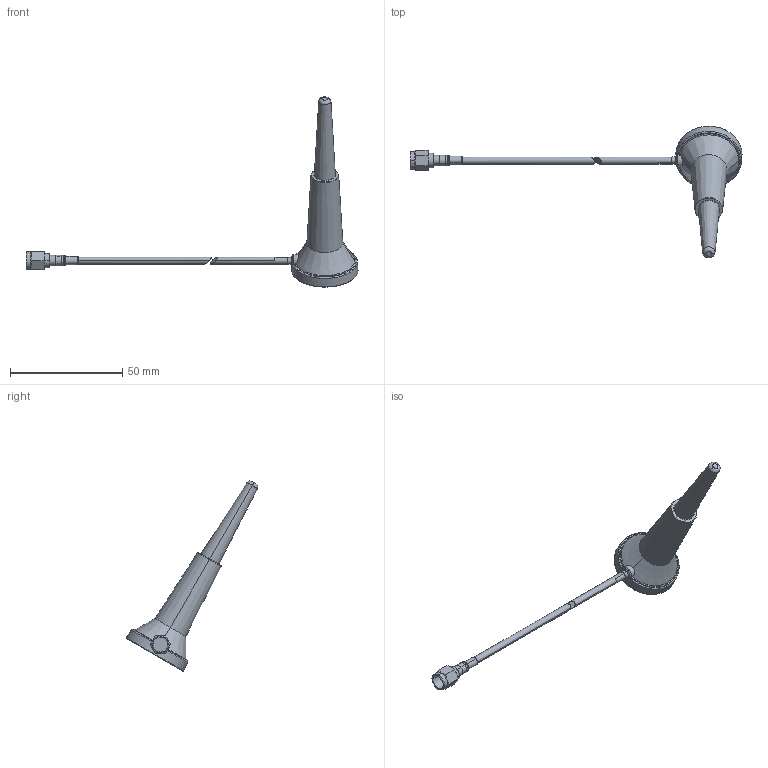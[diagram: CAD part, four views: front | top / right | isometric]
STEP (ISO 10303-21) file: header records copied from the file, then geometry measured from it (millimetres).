
FILE_DESCRIPTION((''),'2;1');
FILE_NAME('X9003484-W7MSMBXXXXL','2026-06-30T19:24:53',('gfichot'),(''),'CREO PARAMETRIC BY PTC INC, 2023072','CREO PARAMETRIC BY PTC INC, 2023072','');
FILE_SCHEMA(('CONFIG_CONTROL_DESIGN'));
Length unit declared in the file: millimetre
Products named in the file (1): X9003484-W7MSMBXXXXL
Bounding box: 147.58 x 58.66 x 84.58 mm (x, y, z)
Volume: 15135.6 mm3; surface area: 5970 mm2
Topology: 2 solids, 2 shells, 82 faces, 182 edges, 109 vertices
Faces by surface type: cone 27, plane 18, torus 17, cylinder 12, bspline 8
Entity records: 2703 total; most frequent: CARTESIAN_POINT 874, DIRECTION 396, ORIENTED_EDGE 364, EDGE_CURVE 182, AXIS2_PLACEMENT_3D 178, VERTEX_POINT 109, CIRCLE 104, EDGE_LOOP 87
